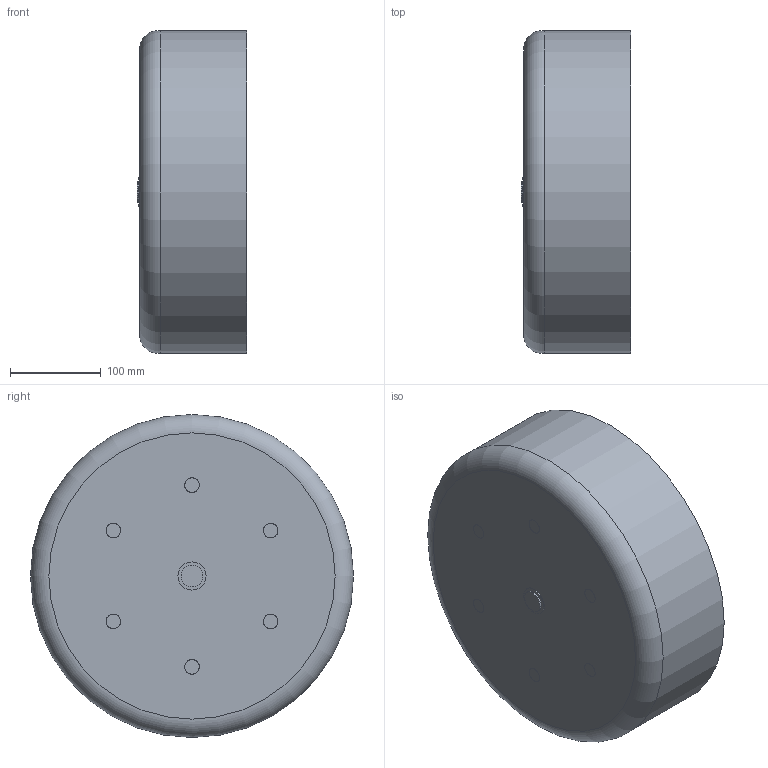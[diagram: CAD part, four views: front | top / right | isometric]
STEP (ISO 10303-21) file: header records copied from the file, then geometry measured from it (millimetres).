
FILE_DESCRIPTION(/* description */ ('Unknown'),/* implementation_level */ '2;1');
FILE_NAME(/* name */ 'CAP355C',/* time_stamp */ '2022-05-17T09:02:14+02:00',/* author */ ('Unknown'),/* organization */ ('Unknown'),/* preprocessor_version */ 'ST-DEVELOPER v18.1',/* originating_system */ 'Solid Edge',/* authorisation */ 'Unknown');
FILE_SCHEMA (('AUTOMOTIVE_DESIGN {1 0 10303 214 3 1 1}'));
Length unit declared in the file: millimetre
Products named in the file (1): CAP355C
Bounding box: 121 x 355.39 x 355.39 mm (x, y, z)
Volume: 6565823 mm3; surface area: 386043.3 mm2
Topology: 1 solids, 1 shells, 23 faces, 35 edges, 23 vertices
Faces by surface type: plane 11, bspline 6, cylinder 4, torus 2
Full cylindrical faces by diameter (mm): 24 x1, 31 x1, 290.6 x1, 355 x1
Entity records: 1000 total; most frequent: CARTESIAN_POINT 638, DIRECTION 56, ORIENTED_EDGE 44, EDGE_LOOP 44, FACE_BOUND 44, AXIS2_PLACEMENT_3D 28, ADVANCED_FACE 23, EDGE_CURVE 22
